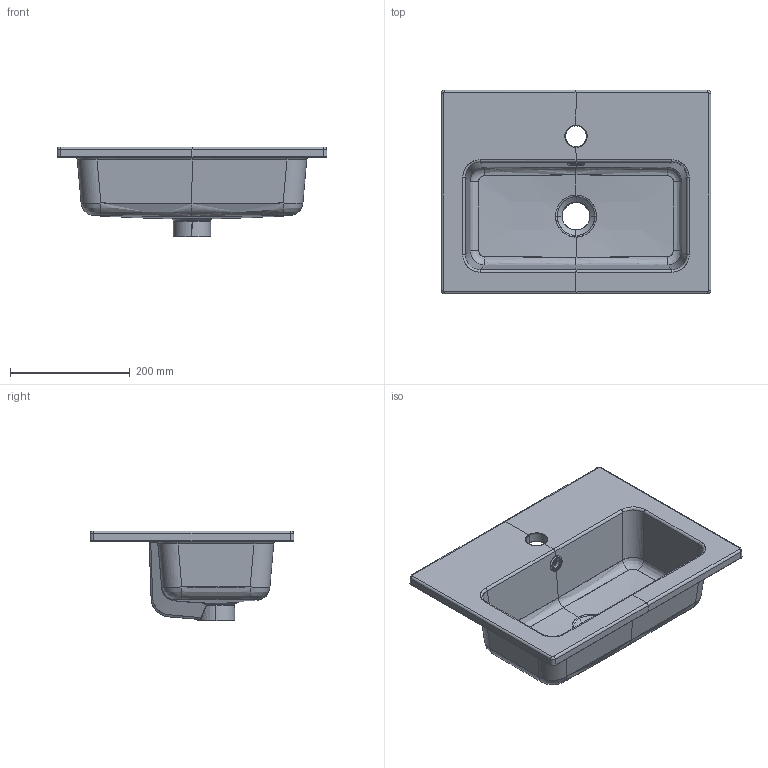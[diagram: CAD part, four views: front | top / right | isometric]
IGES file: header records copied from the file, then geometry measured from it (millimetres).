
Global section: file name: C:\Users\User\Desktop\Liebana 450\Li; native system: Rhinoceros ( Jan 23 2018 ); preprocessor: Trout Lake IGES 012 Jan 23 2018; date: 210311.112737; units: millimetre
Bounding box: 450 x 340 x 149.91 mm (x, y, z)
Surface area: 538241.5 mm2 (no closed solid volume)
Topology: 0 solids, 0 shells, 257 faces, 2275 edges, 2267 vertices
Faces by surface type: bspline 257
